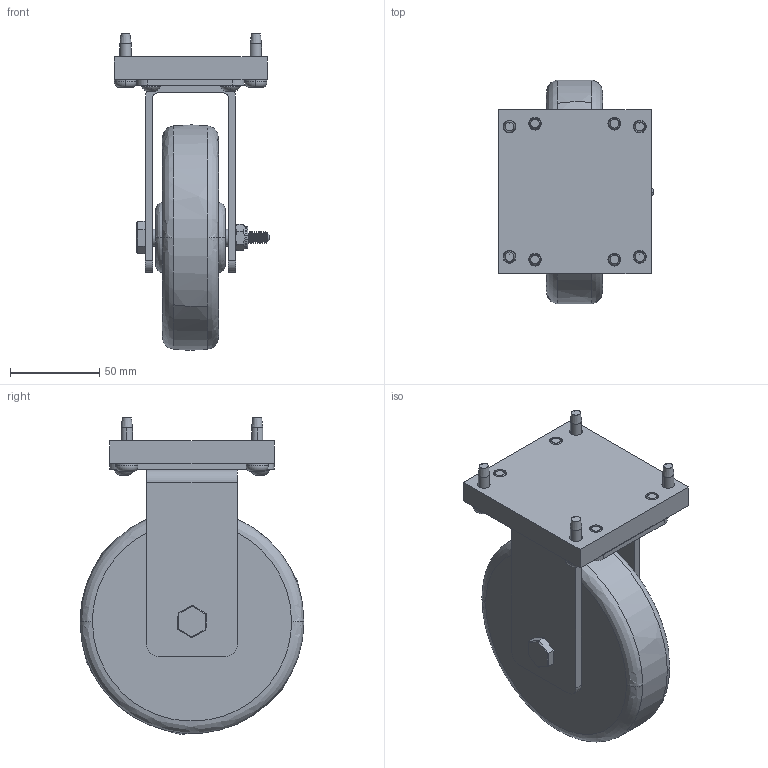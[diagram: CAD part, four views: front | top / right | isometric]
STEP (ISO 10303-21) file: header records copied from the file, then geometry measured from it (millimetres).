
FILE_DESCRIPTION (( 'STEP AP214' ), '1' );
FILE_NAME ('H0300811.STEP', '2014-02-11T16:12:36', ( 'Eric_Werenskjold' ), ( '' ), 'SwSTEP 2.0', 'SolidWorks 2014', '' );
FILE_SCHEMA (( 'AUTOMOTIVE_DESIGN' ));
Length unit declared in the file: inch
Products named in the file (8): 31CNTEZ_31CNTEZ; 50N200HHSS_94496A620; Socket Button Head Cap Screw_AI_SBHCSCREW 0.25-20x0.625-HX-S; 25C100PTFZ; wheel yoke; MEPPJ0500V022_3D; rubberwheel; H0300811
Assembly tree (13 placements, depth 2):
  H0300811
    rubberwheel
    MEPPJ0500V022_3D
    wheel yoke
    25C100PTFZ  x4
    Socket Button Head Cap Screw_AI_SBHCSCREW 0.25-20x0.625-HX-S  x4
    50N200HHSS_94496A620
    31CNTEZ_31CNTEZ
Bounding box: 87.21 x 125.5 x 177.35 mm (x, y, z)
Volume: 566485.3 mm3; surface area: 104391.8 mm2
Topology: 13 solids, 13 shells, 816 faces, 2124 edges, 1351 vertices
Faces by surface type: cylinder 328, cone 253, plane 198, torus 17, bspline 12, sphere 8
Entity records: 15230 total; most frequent: CARTESIAN_POINT 5539, ORIENTED_EDGE 2048, DIRECTION 1909, EDGE_CURVE 1024, AXIS2_PLACEMENT_3D 748, VERTEX_POINT 661, EDGE_LOOP 435, VECTOR 413
